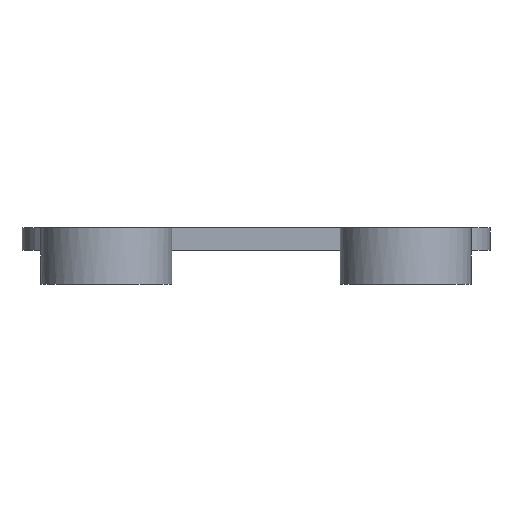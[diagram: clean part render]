
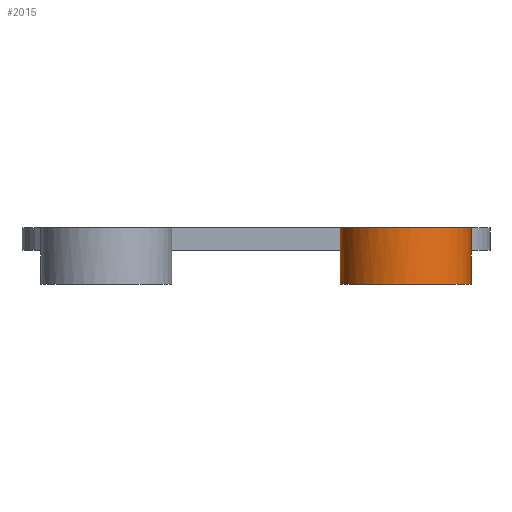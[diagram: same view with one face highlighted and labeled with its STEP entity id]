
A CAD part, front view. The second image highlights one B-rep face of the part: STEP entity #2015.
In plain terms, the highlighted cylindrical face has radius 3.5 mm (diameter 7 mm), a full revolution.
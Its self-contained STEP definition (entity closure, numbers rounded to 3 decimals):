
#62 = PLANE('',#63);
#63 = AXIS2_PLACEMENT_3D('',#64,#65,#66);
#64 = CARTESIAN_POINT('',(-36.5,16.5,39.6));
#65 = DIRECTION('',(0.,0.,1.));
#66 = DIRECTION('',(1.,0.,0.));
#118 = PLANE('',#119);
#119 = AXIS2_PLACEMENT_3D('',#120,#121,#122);
#120 = CARTESIAN_POINT('',(-36.5,16.5,38.4));
#121 = DIRECTION('',(0.,0.,1.));
#122 = DIRECTION('',(1.,0.,0.));
#322 = VERTEX_POINT('',#323);
#323 = CARTESIAN_POINT('',(-19.,14.303,39.6));
#337 = PLANE('',#338);
#338 = AXIS2_PLACEMENT_3D('',#339,#340,#341);
#339 = CARTESIAN_POINT('',(-19.,12.5,38.4));
#340 = DIRECTION('',(1.,0.,0.));
#341 = DIRECTION('',(0.,0.,1.));
#349 = EDGE_CURVE('',#322,#350,#352,.T.);
#350 = VERTEX_POINT('',#351);
#351 = CARTESIAN_POINT('',(-12.5,12.5,39.6));
#352 = SURFACE_CURVE('',#353,(#358,#365),.PCURVE_S1.);
#353 = CIRCLE('',#354,3.5);
#354 = AXIS2_PLACEMENT_3D('',#355,#356,#357);
#355 = CARTESIAN_POINT('',(-16.,12.5,39.6));
#356 = DIRECTION('',(0.,0.,1.));
#357 = DIRECTION('',(1.,0.,-0.));
#358 = PCURVE('',#62,#359);
#359 = DEFINITIONAL_REPRESENTATION('',(#360),#364);
#360 = CIRCLE('',#361,3.5);
#361 = AXIS2_PLACEMENT_2D('',#362,#363);
#362 = CARTESIAN_POINT('',(20.5,-4.));
#363 = DIRECTION('',(1.,0.));
#364 = ( GEOMETRIC_REPRESENTATION_CONTEXT(2) 
PARAMETRIC_REPRESENTATION_CONTEXT() REPRESENTATION_CONTEXT('2D SPACE',''
  ) );
#365 = PCURVE('',#366,#371);
#366 = CYLINDRICAL_SURFACE('',#367,3.5);
#367 = AXIS2_PLACEMENT_3D('',#368,#369,#370);
#368 = CARTESIAN_POINT('',(-16.,12.5,36.6));
#369 = DIRECTION('',(0.,0.,1.));
#370 = DIRECTION('',(1.,0.,-0.));
#371 = DEFINITIONAL_REPRESENTATION('',(#372),#376);
#372 = LINE('',#373,#374);
#373 = CARTESIAN_POINT('',(0.,3.));
#374 = VECTOR('',#375,1.);
#375 = DIRECTION('',(1.,0.));
#376 = ( GEOMETRIC_REPRESENTATION_CONTEXT(2) 
PARAMETRIC_REPRESENTATION_CONTEXT() REPRESENTATION_CONTEXT('2D SPACE',''
  ) );
#378 = EDGE_CURVE('',#350,#379,#381,.T.);
#379 = VERTEX_POINT('',#380);
#380 = CARTESIAN_POINT('',(-13.,14.303,39.6));
#381 = SURFACE_CURVE('',#382,(#387,#394),.PCURVE_S1.);
#382 = CIRCLE('',#383,3.5);
#383 = AXIS2_PLACEMENT_3D('',#384,#385,#386);
#384 = CARTESIAN_POINT('',(-16.,12.5,39.6));
#385 = DIRECTION('',(0.,0.,1.));
#386 = DIRECTION('',(1.,0.,-0.));
#387 = PCURVE('',#62,#388);
#388 = DEFINITIONAL_REPRESENTATION('',(#389),#393);
#389 = CIRCLE('',#390,3.5);
#390 = AXIS2_PLACEMENT_2D('',#391,#392);
#391 = CARTESIAN_POINT('',(20.5,-4.));
#392 = DIRECTION('',(1.,0.));
#393 = ( GEOMETRIC_REPRESENTATION_CONTEXT(2) 
PARAMETRIC_REPRESENTATION_CONTEXT() REPRESENTATION_CONTEXT('2D SPACE',''
  ) );
#394 = PCURVE('',#366,#395);
#395 = DEFINITIONAL_REPRESENTATION('',(#396),#400);
#396 = LINE('',#397,#398);
#397 = CARTESIAN_POINT('',(0.,3.));
#398 = VECTOR('',#399,1.);
#399 = DIRECTION('',(1.,0.));
#400 = ( GEOMETRIC_REPRESENTATION_CONTEXT(2) 
PARAMETRIC_REPRESENTATION_CONTEXT() REPRESENTATION_CONTEXT('2D SPACE',''
  ) );
#418 = PLANE('',#419);
#419 = AXIS2_PLACEMENT_3D('',#420,#421,#422);
#420 = CARTESIAN_POINT('',(-13.,12.5,38.4));
#421 = DIRECTION('',(1.,0.,0.));
#422 = DIRECTION('',(0.,0.,1.));
#1071 = VERTEX_POINT('',#1072);
#1072 = CARTESIAN_POINT('',(-19.,14.303,38.4));
#1093 = EDGE_CURVE('',#1094,#1071,#1096,.T.);
#1094 = VERTEX_POINT('',#1095);
#1095 = CARTESIAN_POINT('',(-13.,14.303,38.4));
#1096 = SURFACE_CURVE('',#1097,(#1102,#1109),.PCURVE_S1.);
#1097 = CIRCLE('',#1098,3.5);
#1098 = AXIS2_PLACEMENT_3D('',#1099,#1100,#1101);
#1099 = CARTESIAN_POINT('',(-16.,12.5,38.4));
#1100 = DIRECTION('',(0.,0.,1.));
#1101 = DIRECTION('',(1.,0.,-0.));
#1102 = PCURVE('',#118,#1103);
#1103 = DEFINITIONAL_REPRESENTATION('',(#1104),#1108);
#1104 = CIRCLE('',#1105,3.5);
#1105 = AXIS2_PLACEMENT_2D('',#1106,#1107);
#1106 = CARTESIAN_POINT('',(20.5,-4.));
#1107 = DIRECTION('',(1.,0.));
#1108 = ( GEOMETRIC_REPRESENTATION_CONTEXT(2) 
PARAMETRIC_REPRESENTATION_CONTEXT() REPRESENTATION_CONTEXT('2D SPACE',''
  ) );
#1109 = PCURVE('',#366,#1110);
#1110 = DEFINITIONAL_REPRESENTATION('',(#1111),#1115);
#1111 = LINE('',#1112,#1113);
#1112 = CARTESIAN_POINT('',(0.,1.8));
#1113 = VECTOR('',#1114,1.);
#1114 = DIRECTION('',(1.,0.));
#1115 = ( GEOMETRIC_REPRESENTATION_CONTEXT(2) 
PARAMETRIC_REPRESENTATION_CONTEXT() REPRESENTATION_CONTEXT('2D SPACE',''
  ) );
#1750 = EDGE_CURVE('',#1071,#322,#1751,.T.);
#1751 = SURFACE_CURVE('',#1752,(#1756,#1763),.PCURVE_S1.);
#1752 = LINE('',#1753,#1754);
#1753 = CARTESIAN_POINT('',(-19.,14.303,36.6));
#1754 = VECTOR('',#1755,1.);
#1755 = DIRECTION('',(0.,0.,1.));
#1756 = PCURVE('',#337,#1757);
#1757 = DEFINITIONAL_REPRESENTATION('',(#1758),#1762);
#1758 = LINE('',#1759,#1760);
#1759 = CARTESIAN_POINT('',(-1.8,-1.803));
#1760 = VECTOR('',#1761,1.);
#1761 = DIRECTION('',(1.,0.));
#1762 = ( GEOMETRIC_REPRESENTATION_CONTEXT(2) 
PARAMETRIC_REPRESENTATION_CONTEXT() REPRESENTATION_CONTEXT('2D SPACE',''
  ) );
#1763 = PCURVE('',#366,#1764);
#1764 = DEFINITIONAL_REPRESENTATION('',(#1765),#1769);
#1765 = LINE('',#1766,#1767);
#1766 = CARTESIAN_POINT('',(2.6,0.));
#1767 = VECTOR('',#1768,1.);
#1768 = DIRECTION('',(0.,1.));
#1769 = ( GEOMETRIC_REPRESENTATION_CONTEXT(2) 
PARAMETRIC_REPRESENTATION_CONTEXT() REPRESENTATION_CONTEXT('2D SPACE',''
  ) );
#1993 = EDGE_CURVE('',#1094,#379,#1994,.T.);
#1994 = SURFACE_CURVE('',#1995,(#1999,#2006),.PCURVE_S1.);
#1995 = LINE('',#1996,#1997);
#1996 = CARTESIAN_POINT('',(-13.,14.303,36.6));
#1997 = VECTOR('',#1998,1.);
#1998 = DIRECTION('',(0.,0.,1.));
#1999 = PCURVE('',#418,#2000);
#2000 = DEFINITIONAL_REPRESENTATION('',(#2001),#2005);
#2001 = LINE('',#2002,#2003);
#2002 = CARTESIAN_POINT('',(-1.8,-1.803));
#2003 = VECTOR('',#2004,1.);
#2004 = DIRECTION('',(1.,0.));
#2005 = ( GEOMETRIC_REPRESENTATION_CONTEXT(2) 
PARAMETRIC_REPRESENTATION_CONTEXT() REPRESENTATION_CONTEXT('2D SPACE',''
  ) );
#2006 = PCURVE('',#366,#2007);
#2007 = DEFINITIONAL_REPRESENTATION('',(#2008),#2012);
#2008 = LINE('',#2009,#2010);
#2009 = CARTESIAN_POINT('',(0.541,0.));
#2010 = VECTOR('',#2011,1.);
#2011 = DIRECTION('',(0.,1.));
#2012 = ( GEOMETRIC_REPRESENTATION_CONTEXT(2) 
PARAMETRIC_REPRESENTATION_CONTEXT() REPRESENTATION_CONTEXT('2D SPACE',''
  ) );
#2015 = ADVANCED_FACE('',(#2016),#366,.T.);
#2016 = FACE_BOUND('',#2017,.T.);
#2017 = EDGE_LOOP('',(#2018,#2041,#2042,#2043,#2044,#2045,#2046,#2047));
#2018 = ORIENTED_EDGE('',*,*,#2019,.T.);
#2019 = EDGE_CURVE('',#2020,#350,#2022,.T.);
#2020 = VERTEX_POINT('',#2021);
#2021 = CARTESIAN_POINT('',(-12.5,12.5,36.6));
#2022 = SEAM_CURVE('',#2023,(#2027,#2034),.PCURVE_S1.);
#2023 = LINE('',#2024,#2025);
#2024 = CARTESIAN_POINT('',(-12.5,12.5,36.6));
#2025 = VECTOR('',#2026,1.);
#2026 = DIRECTION('',(0.,0.,1.));
#2027 = PCURVE('',#366,#2028);
#2028 = DEFINITIONAL_REPRESENTATION('',(#2029),#2033);
#2029 = LINE('',#2030,#2031);
#2030 = CARTESIAN_POINT('',(6.283,-0.));
#2031 = VECTOR('',#2032,1.);
#2032 = DIRECTION('',(0.,1.));
#2033 = ( GEOMETRIC_REPRESENTATION_CONTEXT(2) 
PARAMETRIC_REPRESENTATION_CONTEXT() REPRESENTATION_CONTEXT('2D SPACE',''
  ) );
#2034 = PCURVE('',#366,#2035);
#2035 = DEFINITIONAL_REPRESENTATION('',(#2036),#2040);
#2036 = LINE('',#2037,#2038);
#2037 = CARTESIAN_POINT('',(0.,-0.));
#2038 = VECTOR('',#2039,1.);
#2039 = DIRECTION('',(0.,1.));
#2040 = ( GEOMETRIC_REPRESENTATION_CONTEXT(2) 
PARAMETRIC_REPRESENTATION_CONTEXT() REPRESENTATION_CONTEXT('2D SPACE',''
  ) );
#2041 = ORIENTED_EDGE('',*,*,#349,.F.);
#2042 = ORIENTED_EDGE('',*,*,#1750,.F.);
#2043 = ORIENTED_EDGE('',*,*,#1093,.F.);
#2044 = ORIENTED_EDGE('',*,*,#1993,.T.);
#2045 = ORIENTED_EDGE('',*,*,#378,.F.);
#2046 = ORIENTED_EDGE('',*,*,#2019,.F.);
#2047 = ORIENTED_EDGE('',*,*,#2048,.T.);
#2048 = EDGE_CURVE('',#2020,#2020,#2049,.T.);
#2049 = SURFACE_CURVE('',#2050,(#2055,#2062),.PCURVE_S1.);
#2050 = CIRCLE('',#2051,3.5);
#2051 = AXIS2_PLACEMENT_3D('',#2052,#2053,#2054);
#2052 = CARTESIAN_POINT('',(-16.,12.5,36.6));
#2053 = DIRECTION('',(0.,0.,1.));
#2054 = DIRECTION('',(1.,0.,-0.));
#2055 = PCURVE('',#366,#2056);
#2056 = DEFINITIONAL_REPRESENTATION('',(#2057),#2061);
#2057 = LINE('',#2058,#2059);
#2058 = CARTESIAN_POINT('',(0.,0.));
#2059 = VECTOR('',#2060,1.);
#2060 = DIRECTION('',(1.,0.));
#2061 = ( GEOMETRIC_REPRESENTATION_CONTEXT(2) 
PARAMETRIC_REPRESENTATION_CONTEXT() REPRESENTATION_CONTEXT('2D SPACE',''
  ) );
#2062 = PCURVE('',#2063,#2068);
#2063 = PLANE('',#2064);
#2064 = AXIS2_PLACEMENT_3D('',#2065,#2066,#2067);
#2065 = CARTESIAN_POINT('',(-16.,12.5,36.6));
#2066 = DIRECTION('',(0.,0.,1.));
#2067 = DIRECTION('',(1.,0.,-0.));
#2068 = DEFINITIONAL_REPRESENTATION('',(#2069),#2073);
#2069 = CIRCLE('',#2070,3.5);
#2070 = AXIS2_PLACEMENT_2D('',#2071,#2072);
#2071 = CARTESIAN_POINT('',(0.,0.));
#2072 = DIRECTION('',(1.,0.));
#2073 = ( GEOMETRIC_REPRESENTATION_CONTEXT(2) 
PARAMETRIC_REPRESENTATION_CONTEXT() REPRESENTATION_CONTEXT('2D SPACE',''
  ) );
